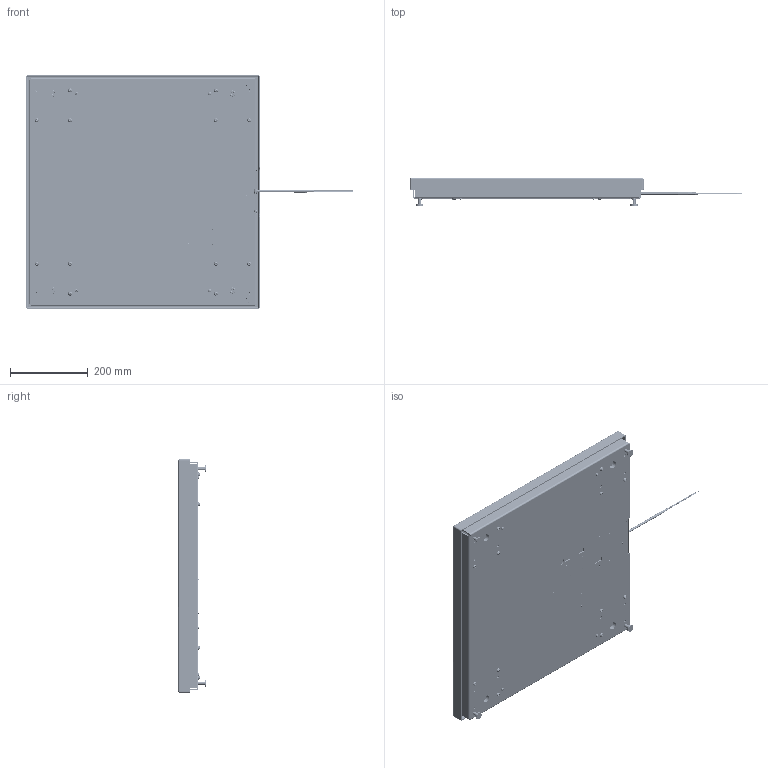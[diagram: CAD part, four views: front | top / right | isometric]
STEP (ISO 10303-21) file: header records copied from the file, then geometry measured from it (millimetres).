
FILE_DESCRIPTION (( 'STEP AP214' ), '1' );
FILE_NAME ('HI2424SBU-1.3K.STEP', '2019-08-13T22:38:24', ( '' ), ( '' ), 'SwSTEP 2.0', 'SolidWorks 2017', '' );
FILE_SCHEMA (( 'AUTOMOTIVE_DESIGN' ));
Length unit declared in the file: millimetre
Products named in the file (41): 0075294; 0075230_91780A198; 0074918; pan cross head_ai_CR-PHMS 0.164-32x0.3125x0.3125-N-A2.70; 0074915_Modified By Hardy_Default<As Machined>; 0077452; 0074533; HI2424SBU-1.3K; 2814-0098-0_90633A007; 0075309; 0075305_42-000848; 0075295; flat head screw_ai_CR-FHMS 0.164-32x0.875x0.875-N-A2.70; 0075232_80-001903; 0078239; 0074904; 0074532; LOAD CELL CABLE; 0530-0628-01; machine screw nut hex_ai_MSHXNUT 0.3125-18-D-N; 0075173_B7; 2808-0013-0; 0075287_C2 CHIP; 0514-0239-01-0; 0075233; 2817-0272-0_90402A146; 0075200_93505A451; 0075231_PBSH-600kg 600 X 600; socket button head cap screw_am_B18.3.4M - 6 x 1.0 x 20 SBHCS --N-A2.70; 0075290; 0075172_A7; 0075174_7; socket head cap screw_am_B18.3.1M - 8 x 1.25 x 20 Hex SHCS -- 20NHX-A2.70; 0074531; 0018546; socket head cap screw_am_B18.3.1M - 4 x 0.7 x 8 Hex SHCS -- 8NHX-A2.70; 0075175_84-001611; 0530-0629-XX; 0074757_Modified By Hardy; 0075198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
Assembly tree (86 placements, depth 4):
  HI2424SBU-1.3K
    0074904
      0074915_Modified By Hardy_Default<As Machined>
      0074918  x4
      0078239
    0075309
    0075175_84-001611  x4
      0075172_A7
      0075174_7
      0075173_B7
    machine screw nut hex_ai_MSHXNUT 0.3125-18-D-N  x4
    0074757_Modified By Hardy
    0075198  x4
    0075200_93505A451  x4
    0075290
      0075233
      0018546  x4
      0075287_C2 CHIP
      0075295  x4
        0075294
        0075293
    pan cross head_ai_CR-PHMS 0.164-32x0.3125x0.3125-N-A2.70  x4
    0074533  x4
      0074532
      socket head cap screw_am_B18.3.1M - 8 x 1.25 x 20 Hex SHCS -- 20NHX-A2.70
      0074531
      0077452
    0075231_PBSH-600kg 600 X 600  x4
      0075230_91780A198
      0075232_80-001903
      flat head screw_ai_CR-FHMS 0.164-32x0.875x0.875-N-A2.70
      pan cross head_ai_CR-PHMS 0.164-32x0.3125x0.3125-N-A2.70
    socket button head cap screw_am_B18.3.4M - 6 x 1.0 x 20 SBHCS --N-A2.70  x12
    2814-0098-0_90633A007  x2
    0514-0239-01-0
    2817-0272-0_90402A146
    2808-0013-0
    LOAD CELL CABLE
    socket head cap screw_am_B18.3.1M - 4 x 0.7 x 8 Hex SHCS -- 8NHX-A2.70
    0075305_42-000848
    0530-0628-01
    0530-0629-XX
Bounding box: 852.36 x 71.16 x 600 mm (x, y, z)
Volume: 3230816 mm3; surface area: 2008620.2 mm2
Topology: 212 solids, 212 shells, 9584 faces, 24578 edges, 15803 vertices
Faces by surface type: plane 6326, cylinder 1662, cone 752, bspline 650, torus 148, sphere 46
Entity records: 268350 total; most frequent: CARTESIAN_POINT 59143, ORIENTED_EDGE 33720, DIRECTION 28822, EDGE_CURVE 16860, LINE 13518, VECTOR 13518, VERTEX_POINT 11049, AXIS2_PLACEMENT_3D 7652
